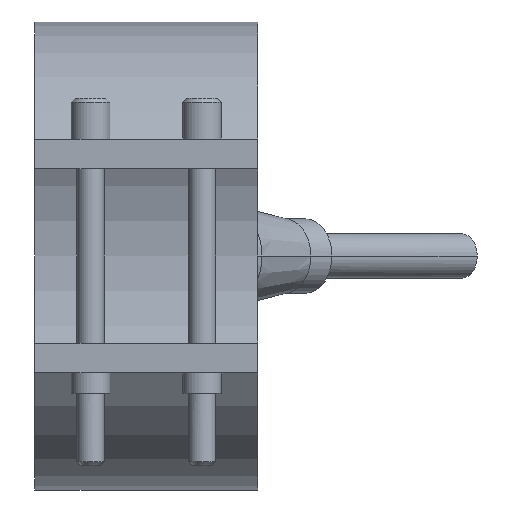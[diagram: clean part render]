
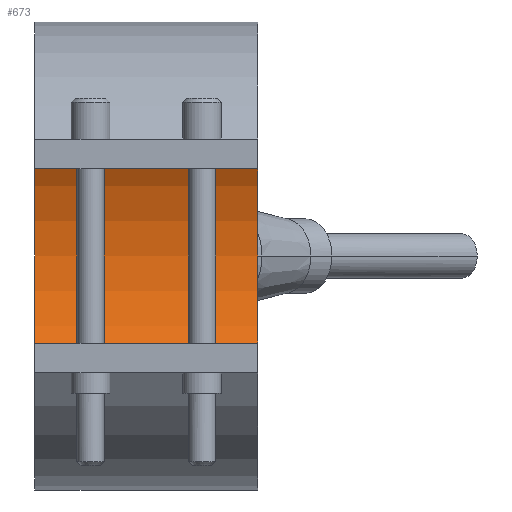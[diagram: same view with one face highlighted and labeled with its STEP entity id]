
A CAD part, front view. The second image highlights one B-rep face of the part: STEP entity #673.
In plain terms, the highlighted cylindrical face has radius 27.5 mm (diameter 55 mm), a partial arc.
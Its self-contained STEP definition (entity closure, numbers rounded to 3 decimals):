
#343=CARTESIAN_POINT('Vertex',(15.,0.,27.5)) ;
#348=CARTESIAN_POINT('Axis2P3D Location',(15.,0.,0.)) ;
#352=CARTESIAN_POINT('Vertex',(15.,0.,-27.5)) ;
#459=CARTESIAN_POINT('Vertex',(-15.,0.,-27.5)) ;
#462=CARTESIAN_POINT('Axis2P3D Location',(-15.,0.,0.)) ;
#466=CARTESIAN_POINT('Vertex',(-15.,0.,27.5)) ;
#645=CARTESIAN_POINT('Line Origine',(15.,0.,27.5)) ;
#657=CARTESIAN_POINT('Axis2P3D Location',(15.,0.,0.)) ;
#662=CARTESIAN_POINT('Line Origine',(15.,0.,-27.5)) ;
#349=DIRECTION('Axis2P3D Direction',(1.,0.,0.)) ;
#463=DIRECTION('Axis2P3D Direction',(1.,0.,0.)) ;
#646=DIRECTION('Vector Direction',(1.,0.,0.)) ;
#658=DIRECTION('Axis2P3D Direction',(1.,0.,-0.)) ;
#659=DIRECTION('Axis2P3D XDirection',(0.,0.,-1.)) ;
#663=DIRECTION('Vector Direction',(1.,0.,0.)) ;
#350=AXIS2_PLACEMENT_3D('Circle Axis2P3D',#348,#349,$) ;
#464=AXIS2_PLACEMENT_3D('Circle Axis2P3D',#462,#463,$) ;
#660=AXIS2_PLACEMENT_3D('Cylinder Axis2P3D',#657,#658,#659) ;
#668=ORIENTED_EDGE('',*,*,#354,.T.) ;
#669=ORIENTED_EDGE('',*,*,#649,.T.) ;
#670=ORIENTED_EDGE('',*,*,#468,.F.) ;
#671=ORIENTED_EDGE('',*,*,#666,.T.) ;
#647=VECTOR('Line Direction',#646,1.) ;
#664=VECTOR('Line Direction',#663,1.) ;
#673=ADVANCED_FACE('29055030',(#672),#661,.F.) ;
#351=CIRCLE('generated circle',#350,27.5) ;
#465=CIRCLE('generated circle',#464,27.5) ;
#661=CYLINDRICAL_SURFACE('generated cylinder',#660,27.5) ;
#354=EDGE_CURVE('',#353,#344,#351,.T.) ;
#468=EDGE_CURVE('',#460,#467,#465,.T.) ;
#649=EDGE_CURVE('',#344,#467,#648,.F.) ;
#666=EDGE_CURVE('',#460,#353,#665,.T.) ;
#667=EDGE_LOOP('',(#668,#669,#670,#671)) ;
#672=FACE_OUTER_BOUND('',#667,.T.) ;
#648=LINE('Line',#645,#647) ;
#665=LINE('Line',#662,#664) ;
#344=VERTEX_POINT('',#343) ;
#353=VERTEX_POINT('',#352) ;
#460=VERTEX_POINT('',#459) ;
#467=VERTEX_POINT('',#466) ;
